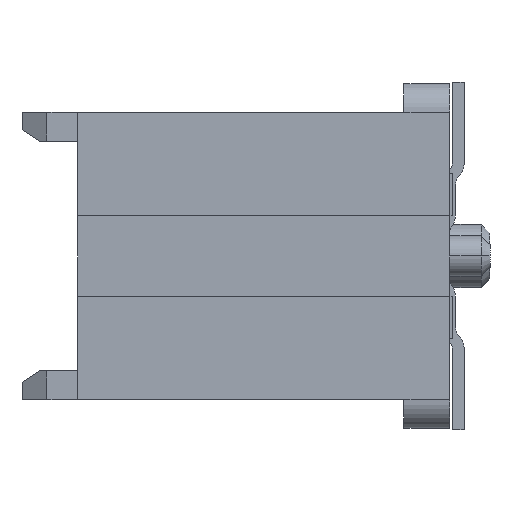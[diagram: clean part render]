
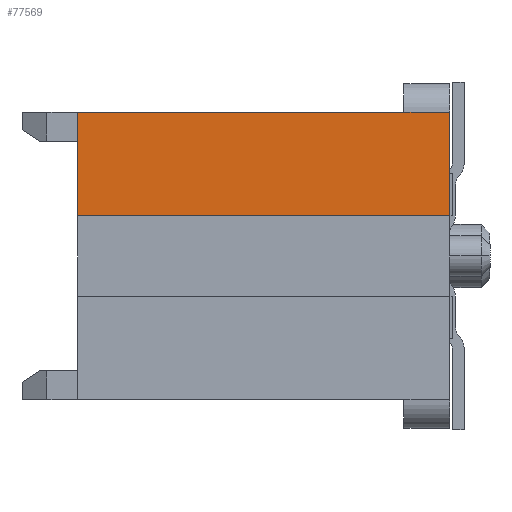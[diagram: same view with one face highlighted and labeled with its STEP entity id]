
A CAD part, left-side view. The second image highlights one B-rep face of the part: STEP entity #77569.
In plain terms, the highlighted planar face has unit normal (-1, 0, 0).
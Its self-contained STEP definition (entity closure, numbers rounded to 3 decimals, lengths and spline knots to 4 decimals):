
#553 = VECTOR ( 'NONE', #76483, 1000. ) ;
#5198 = LINE ( 'NONE', #95126, #76794 ) ;
#6737 = CARTESIAN_POINT ( 'NONE',  ( 0., 6.38, -2.3 ) ) ;
#7412 = ORIENTED_EDGE ( 'NONE', *, *, #30184, .T. ) ;
#11211 = CARTESIAN_POINT ( 'NONE',  ( 0., -0.1, -2.3 ) ) ;
#15427 = FACE_OUTER_BOUND ( 'NONE', #64711, .T. ) ;
#24395 = DIRECTION ( 'NONE',  ( 0., 1., 0. ) ) ;
#26302 = LINE ( 'NONE', #6737, #553 ) ;
#27146 = DIRECTION ( 'NONE',  ( 1., 0., 0. ) ) ;
#27197 = DIRECTION ( 'NONE',  ( 0., 1., 0. ) ) ;
#30184 = EDGE_CURVE ( 'NONE', #53973, #38776, #5198, .T. ) ;
#33548 = VECTOR ( 'NONE', #27197, 1000. ) ;
#34115 = EDGE_CURVE ( 'NONE', #53973, #103779, #114951, .T. ) ;
#38776 = VERTEX_POINT ( 'NONE', #108396 ) ;
#39078 = CARTESIAN_POINT ( 'NONE',  ( 0., 0.7, -0.5 ) ) ;
#44986 = DIRECTION ( 'NONE',  ( 0., 0., 1. ) ) ;
#46720 = PLANE ( 'NONE',  #56244 ) ;
#52220 = DIRECTION ( 'NONE',  ( 0., 1., 0. ) ) ;
#53155 = EDGE_CURVE ( 'NONE', #103779, #120085, #26302, .T. ) ;
#53973 = VERTEX_POINT ( 'NONE', #11211 ) ;
#56244 = AXIS2_PLACEMENT_3D ( 'NONE', #76680, #27146, #83877 ) ;
#59704 = VERTEX_POINT ( 'NONE', #39078 ) ;
#64711 = EDGE_LOOP ( 'NONE', ( #125262, #90126, #70255, #7412, #84307 ) ) ;
#70255 = ORIENTED_EDGE ( 'NONE', *, *, #34115, .F. ) ;
#76483 = DIRECTION ( 'NONE',  ( 0., 0., 1. ) ) ;
#76680 = CARTESIAN_POINT ( 'NONE',  ( 0., 3.14, -1.4 ) ) ;
#76794 = VECTOR ( 'NONE', #44986, 1000. ) ;
#77569 = ADVANCED_FACE ( 'NONE', ( #15427 ), #46720, .F. ) ;
#81822 = VECTOR ( 'NONE', #24395, 1000. ) ;
#83877 = DIRECTION ( 'NONE',  ( 0., 1., 0. ) ) ;
#84307 = ORIENTED_EDGE ( 'NONE', *, *, #128486, .T. ) ;
#85841 = LINE ( 'NONE', #116479, #33548 ) ;
#90126 = ORIENTED_EDGE ( 'NONE', *, *, #53155, .F. ) ;
#93912 = VECTOR ( 'NONE', #52220, 1000. ) ;
#95126 = CARTESIAN_POINT ( 'NONE',  ( 0., -0.1, -2.3 ) ) ;
#95405 = CARTESIAN_POINT ( 'NONE',  ( 0., -0.1, -2.3 ) ) ;
#103779 = VERTEX_POINT ( 'NONE', #121170 ) ;
#104767 = LINE ( 'NONE', #121907, #93912 ) ;
#108396 = CARTESIAN_POINT ( 'NONE',  ( 0., -0.1, -0.5 ) ) ;
#109147 = CARTESIAN_POINT ( 'NONE',  ( 0., 6.38, -0.5 ) ) ;
#114951 = LINE ( 'NONE', #95405, #81822 ) ;
#116479 = CARTESIAN_POINT ( 'NONE',  ( 0., 0.7, -0.5 ) ) ;
#120085 = VERTEX_POINT ( 'NONE', #109147 ) ;
#121170 = CARTESIAN_POINT ( 'NONE',  ( 0., 6.38, -2.3 ) ) ;
#121907 = CARTESIAN_POINT ( 'NONE',  ( 0., -0.1, -0.5 ) ) ;
#125262 = ORIENTED_EDGE ( 'NONE', *, *, #128606, .T. ) ;
#128486 = EDGE_CURVE ( 'NONE', #38776, #59704, #104767, .T. ) ;
#128606 = EDGE_CURVE ( 'NONE', #59704, #120085, #85841, .T. ) ;
